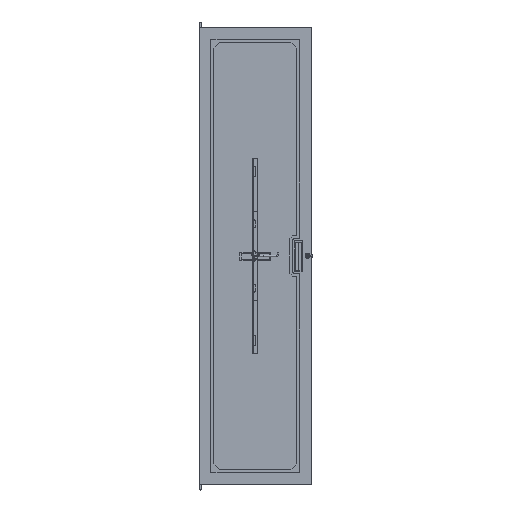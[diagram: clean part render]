
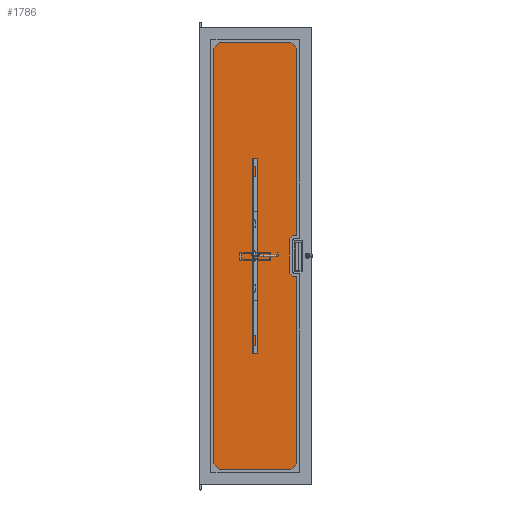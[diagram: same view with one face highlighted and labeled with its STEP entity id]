
A CAD part, front view. The second image highlights one B-rep face of the part: STEP entity #1786.
In plain terms, the highlighted planar face has unit normal (0, -1, 0).
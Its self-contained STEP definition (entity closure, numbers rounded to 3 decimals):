
#1786 = ADVANCED_FACE( '', ( #2583 ), #2584, .T. );
#2583 = FACE_OUTER_BOUND( '', #3603, .T. );
#2584 = PLANE( '', #3604 );
#3603 = EDGE_LOOP( '', ( #5946, #5947, #5948, #5949, #5950, #5951, #5952, #5953, #5954, #5955, #5956, #5957 ) );
#3604 = AXIS2_PLACEMENT_3D( '', #5958, #5959, #5960 );
#5946 = ORIENTED_EDGE( '', *, *, #6875, .T. );
#5947 = ORIENTED_EDGE( '', *, *, #6879, .T. );
#5948 = ORIENTED_EDGE( '', *, *, #6882, .T. );
#5949 = ORIENTED_EDGE( '', *, *, #6883, .T. );
#5950 = ORIENTED_EDGE( '', *, *, #6884, .T. );
#5951 = ORIENTED_EDGE( '', *, *, #6885, .T. );
#5952 = ORIENTED_EDGE( '', *, *, #6886, .T. );
#5953 = ORIENTED_EDGE( '', *, *, #6887, .T. );
#5954 = ORIENTED_EDGE( '', *, *, #6888, .T. );
#5955 = ORIENTED_EDGE( '', *, *, #6889, .T. );
#5956 = ORIENTED_EDGE( '', *, *, #6890, .T. );
#5957 = ORIENTED_EDGE( '', *, *, #6891, .T. );
#5958 = CARTESIAN_POINT( '', ( 187.325, 0., -81.756 ) );
#5959 = DIRECTION( '', ( 0., -1., 0. ) );
#5960 = DIRECTION( '', ( 0., 0., -1. ) );
#6875 = EDGE_CURVE( '', #8064, #8065, #8066, .T. );
#6879 = EDGE_CURVE( '', #8065, #8072, #8073, .T. );
#6882 = EDGE_CURVE( '', #8072, #8077, #8078, .T. );
#6883 = EDGE_CURVE( '', #8077, #8079, #8080, .T. );
#6884 = EDGE_CURVE( '', #8079, #8081, #8082, .T. );
#6885 = EDGE_CURVE( '', #8081, #8083, #8084, .T. );
#6886 = EDGE_CURVE( '', #8083, #8085, #8086, .T. );
#6887 = EDGE_CURVE( '', #8085, #8087, #8088, .T. );
#6888 = EDGE_CURVE( '', #8087, #8089, #8090, .T. );
#6889 = EDGE_CURVE( '', #8089, #8091, #8092, .T. );
#6890 = EDGE_CURVE( '', #8091, #8093, #8094, .T. );
#6891 = EDGE_CURVE( '', #8093, #8064, #8095, .T. );
#8064 = VERTEX_POINT( '', #9908 );
#8065 = VERTEX_POINT( '', #9909 );
#8066 = LINE( '', #9910, #9911 );
#8072 = VERTEX_POINT( '', #9920 );
#8073 = LINE( '', #9921, #9922 );
#8077 = VERTEX_POINT( '', #9928 );
#8078 = LINE( '', #9929, #9930 );
#8079 = VERTEX_POINT( '', #9931 );
#8080 = CIRCLE( '', #9932, 6.35 );
#8081 = VERTEX_POINT( '', #9933 );
#8082 = LINE( '', #9934, #9935 );
#8083 = VERTEX_POINT( '', #9936 );
#8084 = CIRCLE( '', #9937, 6.35 );
#8085 = VERTEX_POINT( '', #9938 );
#8086 = LINE( '', #9939, #9940 );
#8087 = VERTEX_POINT( '', #9941 );
#8088 = CIRCLE( '', #9942, 6.35 );
#8089 = VERTEX_POINT( '', #9943 );
#8090 = LINE( '', #9944, #9945 );
#8091 = VERTEX_POINT( '', #9946 );
#8092 = CIRCLE( '', #9947, 6.35 );
#8093 = VERTEX_POINT( '', #9948 );
#8094 = LINE( '', #9949, #9950 );
#8095 = LINE( '', #9951, #9952 );
#9908 = CARTESIAN_POINT( '', ( -193.675, 0., 945.363 ) );
#9909 = CARTESIAN_POINT( '', ( -193.675, 0., -945.363 ) );
#9910 = CARTESIAN_POINT( '', ( -193.675, 0., 945.363 ) );
#9911 = VECTOR( '', #11179, 1000. );
#9920 = CARTESIAN_POINT( '', ( 193.675, 0., -945.363 ) );
#9921 = CARTESIAN_POINT( '', ( -193.675, 0., -945.363 ) );
#9922 = VECTOR( '', #11183, 1000. );
#9928 = CARTESIAN_POINT( '', ( 193.675, 0., -81.756 ) );
#9929 = CARTESIAN_POINT( '', ( 193.675, 0., -945.363 ) );
#9930 = VECTOR( '', #11186, 1000. );
#9931 = CARTESIAN_POINT( '', ( 187.325, 0., -75.406 ) );
#9932 = AXIS2_PLACEMENT_3D( '', #11187, #11188, #11189 );
#9933 = CARTESIAN_POINT( '', ( 169.863, 0., -75.406 ) );
#9934 = CARTESIAN_POINT( '', ( 187.325, 0., -75.406 ) );
#9935 = VECTOR( '', #11190, 1000. );
#9936 = CARTESIAN_POINT( '', ( 163.513, 0., -69.056 ) );
#9937 = AXIS2_PLACEMENT_3D( '', #11191, #11192, #11193 );
#9938 = CARTESIAN_POINT( '', ( 163.513, 0., 69.056 ) );
#9939 = CARTESIAN_POINT( '', ( 163.513, 0., 69.056 ) );
#9940 = VECTOR( '', #11194, 1000. );
#9941 = CARTESIAN_POINT( '', ( 169.863, 0., 75.406 ) );
#9942 = AXIS2_PLACEMENT_3D( '', #11195, #11196, #11197 );
#9943 = CARTESIAN_POINT( '', ( 187.325, 0., 75.406 ) );
#9944 = CARTESIAN_POINT( '', ( 187.325, 0., 75.406 ) );
#9945 = VECTOR( '', #11198, 1000. );
#9946 = CARTESIAN_POINT( '', ( 193.675, 0., 81.756 ) );
#9947 = AXIS2_PLACEMENT_3D( '', #11199, #11200, #11201 );
#9948 = CARTESIAN_POINT( '', ( 193.675, 0., 945.363 ) );
#9949 = CARTESIAN_POINT( '', ( 193.675, 0., 81.756 ) );
#9950 = VECTOR( '', #11202, 1000. );
#9951 = CARTESIAN_POINT( '', ( 193.675, 0., 945.363 ) );
#9952 = VECTOR( '', #11203, 1000. );
#11179 = DIRECTION( '', ( 0., 0., -1. ) );
#11183 = DIRECTION( '', ( 1., 0., 0. ) );
#11186 = DIRECTION( '', ( 0., 0., 1. ) );
#11187 = CARTESIAN_POINT( '', ( 187.325, 0., -81.756 ) );
#11188 = DIRECTION( '', ( 0., -1., 0. ) );
#11189 = DIRECTION( '', ( -1., 0., 0. ) );
#11190 = DIRECTION( '', ( -1., 0., 0. ) );
#11191 = CARTESIAN_POINT( '', ( 169.863, 0., -69.056 ) );
#11192 = DIRECTION( '', ( 0., 1., 0. ) );
#11193 = DIRECTION( '', ( 1., 0., 0. ) );
#11194 = DIRECTION( '', ( 0., 0., 1. ) );
#11195 = CARTESIAN_POINT( '', ( 169.863, 0., 69.056 ) );
#11196 = DIRECTION( '', ( 0., 1., 0. ) );
#11197 = DIRECTION( '', ( 1., 0., 0. ) );
#11198 = DIRECTION( '', ( 1., 0., 0. ) );
#11199 = CARTESIAN_POINT( '', ( 187.325, 0., 81.756 ) );
#11200 = DIRECTION( '', ( 0., -1., 0. ) );
#11201 = DIRECTION( '', ( -1., 0., 0. ) );
#11202 = DIRECTION( '', ( 0., 0., 1. ) );
#11203 = DIRECTION( '', ( -1., 0., 0. ) );
